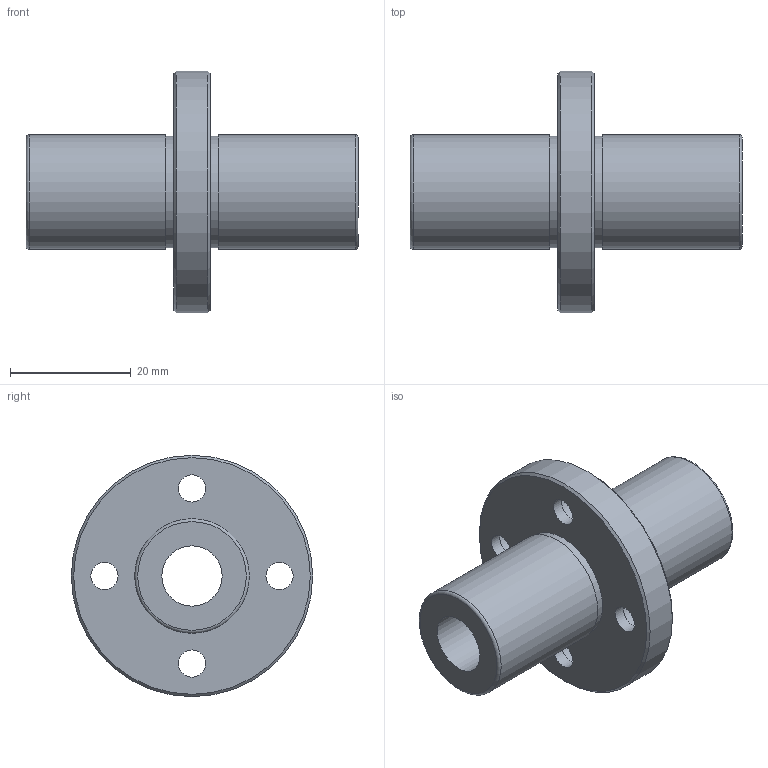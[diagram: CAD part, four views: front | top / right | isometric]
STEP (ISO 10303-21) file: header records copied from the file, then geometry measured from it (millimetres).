
FILE_DESCRIPTION(('STEP AP203'),'1');
FILE_NAME('//192.168.1.1/share/s-4 技術開発/s-4-4_CAD/s-4-4-3_見直し済み/002 修正済み/NFCD-VL/NFCD-VL_TOP/NFCD-10VLUU.step','2022-03-08T04:20:02',(' '),(' '),'Spatial InterOp 3D',' ',' ');
FILE_SCHEMA(('CONFIG_CONTROL_DESIGN'));
Length unit declared in the file: millimetre
Products named in the file (1): 1
Bounding box: 55 x 40 x 40 mm (x, y, z)
Volume: 16201.2 mm3; surface area: 8101.5 mm2
Topology: 1 solids, 1 shells, 28 faces, 56 edges, 38 vertices
Faces by surface type: cylinder 14, plane 10, cone 2, torus 2
Full cylindrical faces by diameter (mm): 4.5 x4, 7.5 x4, 10 x1, 18.5 x2, 19 x2, 40 x1
Entity records: 668 total; most frequent: DIRECTION 122, CARTESIAN_POINT 93, EDGE_LOOP 64, ORIENTED_EDGE 64, AXIS2_PLACEMENT_3D 61, FACE_OUTER_BOUND 44, EDGE_CURVE 32, VERTEX_POINT 32
